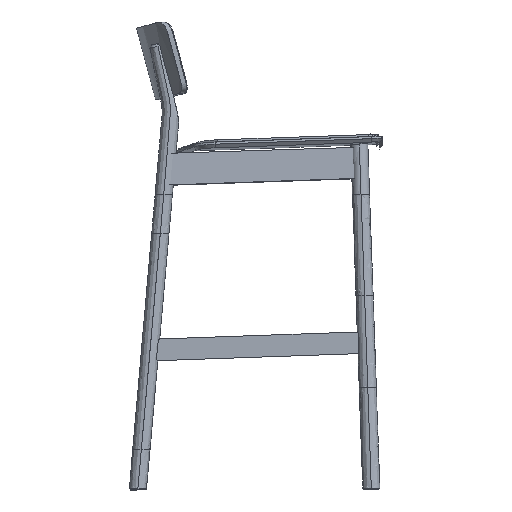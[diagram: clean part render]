
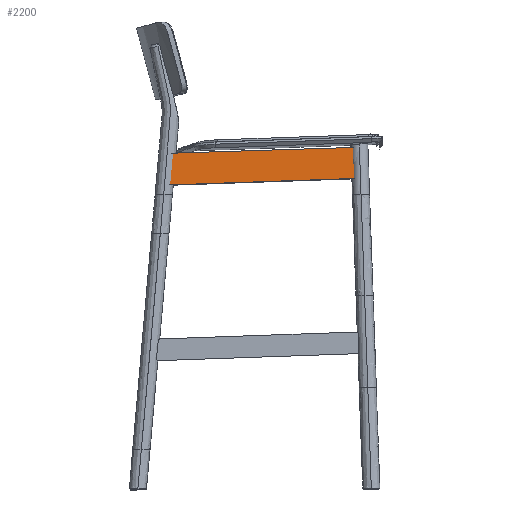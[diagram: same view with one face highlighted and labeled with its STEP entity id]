
A CAD part, left-side view. The second image highlights one B-rep face of the part: STEP entity #2200.
In plain terms, the highlighted planar face has unit normal (-0.999, 0, 0.035).
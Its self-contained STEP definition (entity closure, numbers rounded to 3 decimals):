
#45=(
BOUNDED_CURVE()
B_SPLINE_CURVE(3,(#9170,#9171,#9172,#9173,#9174,#9175,#9176),
 .UNSPECIFIED.,.F.,.F.)
B_SPLINE_CURVE_WITH_KNOTS((4,3,4),(0.927,56.354,60.356),
 .UNSPECIFIED.)
CURVE()
GEOMETRIC_REPRESENTATION_ITEM()
RATIONAL_B_SPLINE_CURVE((1.,1.,1.,1.,1.,1.,1.))
REPRESENTATION_ITEM('')
);
#46=(
BOUNDED_CURVE()
B_SPLINE_CURVE(1,(#9177,#9178),.UNSPECIFIED.,.F.,.F.)
B_SPLINE_CURVE_WITH_KNOTS((2,2),(940.816,998.613),
 .UNSPECIFIED.)
CURVE()
GEOMETRIC_REPRESENTATION_ITEM()
RATIONAL_B_SPLINE_CURVE((1.,1.))
REPRESENTATION_ITEM('')
);
#181=PLANE('',#5700);
#2200=ADVANCED_FACE('',(#2376),#181,.T.);
#2376=FACE_OUTER_BOUND('',#2552,.T.);
#2552=EDGE_LOOP('',(#2944,#2945,#2946,#2947));
#2944=ORIENTED_EDGE('',*,*,#3698,.F.);
#2945=ORIENTED_EDGE('',*,*,#3699,.T.);
#2946=ORIENTED_EDGE('',*,*,#3697,.F.);
#2947=ORIENTED_EDGE('',*,*,#3700,.T.);
#3697=EDGE_CURVE('',#5103,#5104,#4417,.T.);
#3698=EDGE_CURVE('',#5106,#5105,#4418,.T.);
#3699=EDGE_CURVE('',#5106,#5104,#45,.T.);
#3700=EDGE_CURVE('',#5103,#5105,#46,.T.);
#4417=B_SPLINE_CURVE_WITH_KNOTS('',1,(#9158,#9159),.UNSPECIFIED.,.F.,.F.,
(2,2),(-441.269,-75.116),.UNSPECIFIED.);
#4418=B_SPLINE_CURVE_WITH_KNOTS('',3,(#9160,#9161,#9162,#9163,#9164,#9165,
#9166,#9167,#9168,#9169),.UNSPECIFIED.,.F.,.F.,(4,3,3,4),(82.359,
114.888,302.792,441.271),.UNSPECIFIED.);
#5103=VERTEX_POINT('',#9154);
#5104=VERTEX_POINT('',#9155);
#5105=VERTEX_POINT('',#9156);
#5106=VERTEX_POINT('',#9157);
#5700=AXIS2_PLACEMENT_3D('',#9153,#5760,$);
#5760=DIRECTION('',(-0.999,0.,0.035));
#9153=CARTESIAN_POINT('',(-187.8,207.374,639.951));
#9154=CARTESIAN_POINT('',(-190.067,-195.269,575.05));
#9155=CARTESIAN_POINT('',(-190.513,170.661,562.28));
#9156=CARTESIAN_POINT('',(-188.051,-193.252,632.777));
#9157=CARTESIAN_POINT('',(-188.447,165.482,621.446));
#9158=CARTESIAN_POINT('',(-190.067,-195.269,575.05));
#9159=CARTESIAN_POINT('',(-190.513,170.661,562.28));
#9160=CARTESIAN_POINT('',(-188.447,165.482,621.446));
#9161=CARTESIAN_POINT('',(-188.435,154.644,621.781));
#9162=CARTESIAN_POINT('',(-188.423,143.806,622.117));
#9163=CARTESIAN_POINT('',(-188.411,132.968,622.452));
#9164=CARTESIAN_POINT('',(-188.344,70.364,624.39));
#9165=CARTESIAN_POINT('',(-188.275,7.76,626.371));
#9166=CARTESIAN_POINT('',(-188.205,-54.843,628.366));
#9167=CARTESIAN_POINT('',(-188.154,-100.979,629.836));
#9168=CARTESIAN_POINT('',(-188.102,-147.115,631.314));
#9169=CARTESIAN_POINT('',(-188.051,-193.252,632.777));
#9170=CARTESIAN_POINT('',(-188.447,165.482,621.446));
#9171=CARTESIAN_POINT('',(-189.089,167.092,603.052));
#9172=CARTESIAN_POINT('',(-189.731,168.702,584.658));
#9173=CARTESIAN_POINT('',(-190.374,170.312,566.264));
#9174=CARTESIAN_POINT('',(-190.42,170.429,564.936));
#9175=CARTESIAN_POINT('',(-190.466,170.545,563.608));
#9176=CARTESIAN_POINT('',(-190.513,170.661,562.28));
#9177=CARTESIAN_POINT('',(-190.067,-195.269,575.05));
#9178=CARTESIAN_POINT('',(-188.051,-193.252,632.777));
